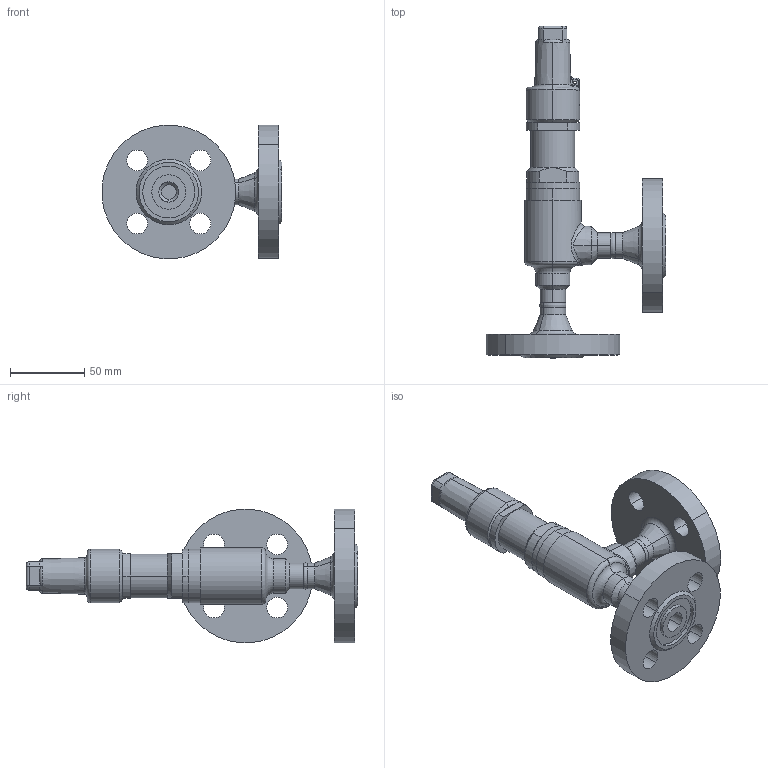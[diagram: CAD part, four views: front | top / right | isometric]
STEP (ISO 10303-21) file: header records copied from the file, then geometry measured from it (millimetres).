
FILE_DESCRIPTION (( 'STEP AP214' ), '1' );
FILE_NAME ('UVU 42220C08-DN10-10_DIN-FL.STEP', '2010-09-10T07:56:43', ( 'Eckhard Grams' ), ( 'AWP Kälte Klima Armaturen GmbH' ), 'SwSTEP 2.0', 'SolidWorks 2002296', '' );
FILE_SCHEMA (( 'AUTOMOTIVE_DESIGN' ));
Length unit declared in the file: millimetre
Products named in the file (10): UVU 42220C08-DN10-10_DIN-FL; Deckel 44551-07-DN 8-15_PS40_Standard; Klemmring 44551-07-DN 8-15_Standard; Geh,kpl 42220E08-DN10-10_DIN-FL_PS40_Standard; Flansch-DIN2635-Nut_PS40_DIN-Flansch-DN010_PS40-Nut; bead Geh.kpl 42220-08-1_Standard; bead Geh.kpl 42220-08-2_Standard; Gehäuse42200E08-DN10-10_PS40_R1_Standard; Kappe 36302-10_DN6-15 (M27x1)_Standard; Einstellschr 44551-07-8080002_DN 8-15_Standard
Assembly tree (10 placements, depth 3):
  UVU 42220C08-DN10-10_DIN-FL
    Einstellschr 44551-07-8080002_DN 8-15_Standard
    Deckel 44551-07-DN 8-15_PS40_Standard
    Kappe 36302-10_DN6-15 (M27x1)_Standard
    Geh,kpl 42220E08-DN10-10_DIN-FL_PS40_Standard
      Gehäuse42200E08-DN10-10_PS40_R1_Standard
      bead Geh.kpl 42220-08-2_Standard
      Flansch-DIN2635-Nut_PS40_DIN-Flansch-DN010_PS40-Nut  x2
      bead Geh.kpl 42220-08-1_Standard
    Klemmring 44551-07-DN 8-15_Standard
Bounding box: 120.83 x 223 x 89.66 mm (x, y, z)
Volume: 278330.3 mm3; surface area: 87773.3 mm2
Topology: 9 solids, 9 shells, 307 faces, 686 edges, 415 vertices
Faces by surface type: cylinder 128, plane 61, cone 59, torus 32, bspline 27
Entity records: 23283 total; most frequent: CARTESIAN_POINT 16170, DIRECTION 1341, ORIENTED_EDGE 1228, EDGE_CURVE 614, AXIS2_PLACEMENT_3D 570, VERTEX_POINT 369, EDGE_LOOP 315, CIRCLE 308
